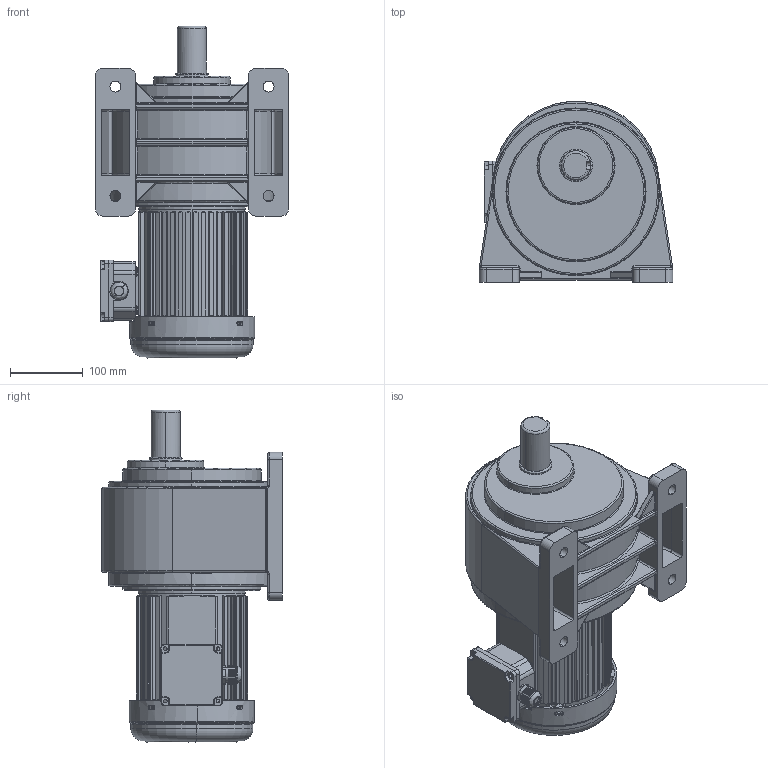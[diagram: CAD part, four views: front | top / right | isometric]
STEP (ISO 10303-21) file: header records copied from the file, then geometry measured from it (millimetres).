
FILE_DESCRIPTION (( 'STEP AP203' ), '1' );
FILE_NAME ('750W配5#卧式.STEP', '2019-06-14T08:35:49', ( '微软中国' ), ( '微软用户' ), 'SwSTEP 2.0', 'SolidWorks 2012', '' );
FILE_SCHEMA (( 'CONFIG_CONTROL_DESIGN' ));
Length unit declared in the file: millimetre
Products named in the file (9): 750W饜5#拏宒; 5#拏宒眊极; 750W瑞欶; 釱菜; 750W 綴傷裔2_2; 坶踡ん 蚾饜; 蜊輛綴諉盄碟裔; 呿蹋諉盄碟; 儂褲 750W
Assembly tree (8 placements, depth 2):
  750W饜5#拏宒
    儂褲 750W
    呿蹋諉盄碟
    蜊輛綴諉盄碟裔
    坶踡ん 蚾饜
    750W 綴傷裔2_2
    釱菜
    750W瑞欶
    5#拏宒眊极
Bounding box: 265 x 247.74 x 455.13 mm (x, y, z)
Volume: 8384796.5 mm3; surface area: 864301.3 mm2
Topology: 7 solids, 11 shells, 2230 faces, 5915 edges, 3796 vertices
Faces by surface type: cylinder 1132, plane 728, bspline 328, torus 30, sphere 8, cone 4
Entity records: 87378 total; most frequent: CARTESIAN_POINT 31082, ORIENTED_EDGE 11750, DIRECTION 11359, EDGE_CURVE 5877, AXIS2_PLACEMENT_3D 4228, VERTEX_POINT 3796, VECTOR 2903, LINE 2903
